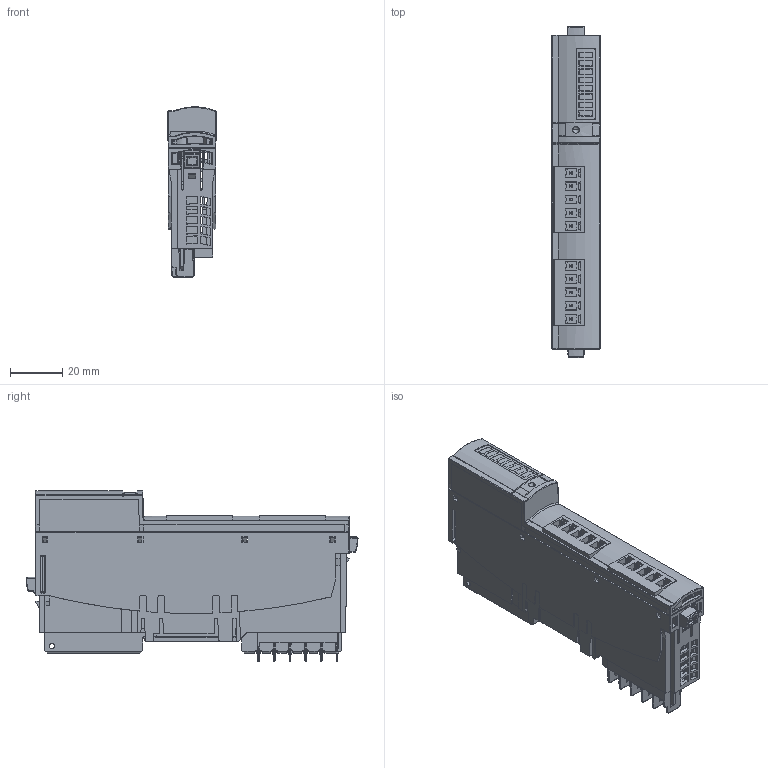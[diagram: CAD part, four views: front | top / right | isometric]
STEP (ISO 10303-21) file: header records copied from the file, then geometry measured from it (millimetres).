
FILE_DESCRIPTION((''),'2;1');
FILE_NAME('STB_T2_MOD_S_ENS_ASM','2018-05-29T',('SESA42808'),('Schneider-Electric'),'PRO/ENGINEER BY PARAMETRIC TECHNOLOGY CORPORATION, 2015440','PRO/ENGINEER BY PARAMETRIC TECHNOLOGY CORPORATION, 2015440','');
FILE_SCHEMA(('CONFIG_CONTROL_DESIGN'));
Length unit declared in the file: millimetre
Products named in the file (17): STB_T2_MOD_PLASTRON; STB_T2_MOD_CONDUIT_LUM_AF0; STB_T2_MOD_PROTEC_LUM; STB_T2_S_ENS_PLASTRON_ASM; 35005857; STB_TX_MOD_CON_BROCHE_08_AF0; STB_TX_MOD_CON_BROCHE_08_AF1; STB_TX_MOD_CON_BROCHE_08_AF2; STB_TX_MOD_CON_BROCHE_08_AF3; STB_TX_MOD_CON_BROCHE_08; STB_T2_MOD_SUPP-BRO_508; STB_T2_MOD_CONNECT_CARTE_ASM; LED_CMS_HMLP; 35005857_ASM; 35007614; STB_T2_ETIQU_SIGNAL_COURB; STB_T2_MOD_S_ENS_ASM
Assembly tree (24 placements, depth 4):
  STB_T2_MOD_S_ENS_ASM
    STB_T2_S_ENS_PLASTRON_ASM
      STB_T2_MOD_PLASTRON
      STB_T2_MOD_CONDUIT_LUM_AF0
      STB_T2_MOD_PROTEC_LUM
    35005857_ASM
      35005857
      STB_T2_MOD_CONNECT_CARTE_ASM  x2
        STB_TX_MOD_CON_BROCHE_08_AF0
        STB_TX_MOD_CON_BROCHE_08_AF1
        STB_TX_MOD_CON_BROCHE_08_AF2
        STB_TX_MOD_CON_BROCHE_08_AF3
        STB_TX_MOD_CON_BROCHE_08
        STB_T2_MOD_SUPP-BRO_508
      LED_CMS_HMLP  x8
    35007614
    STB_T2_ETIQU_SIGNAL_COURB
Bounding box: 18.4 x 126.98 x 65.07 mm (x, y, z)
Volume: 38400.9 mm3; surface area: 61075.9 mm2
Topology: 26 solids, 26 shells, 4371 faces, 12129 edges, 7792 vertices
Faces by surface type: plane 3227, cylinder 757, bspline 169, cone 124, sphere 52, torus 26, revolution 16
Entity records: 142891 total; most frequent: CARTESIAN_POINT 41748, ORIENTED_EDGE 22718, DIRECTION 18139, EDGE_CURVE 11359, VECTOR 8593, LINE 8593, VERTEX_POINT 7321, AXIS2_PLACEMENT_3D 4772
